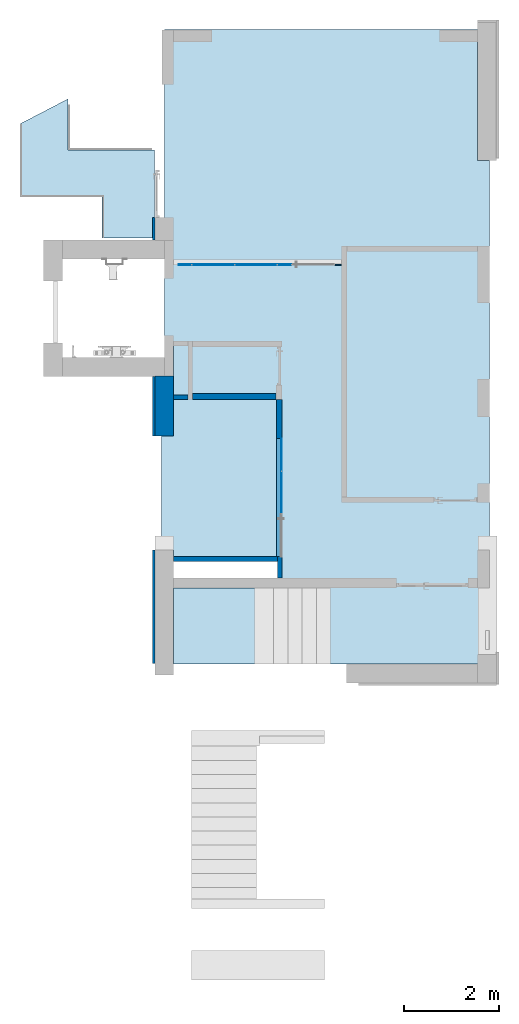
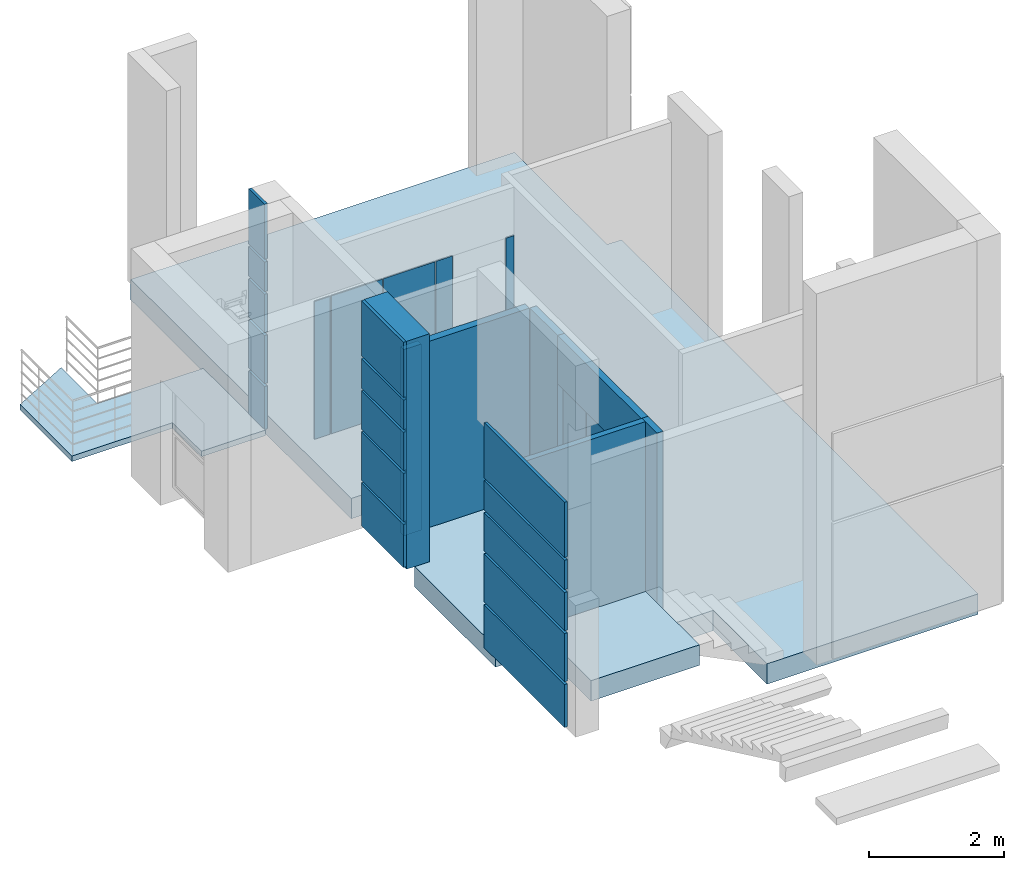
# One storey, part 2 of 15: 8 walls, 7 plates, 3 slabs, 2 elements without a shape of their own.
"""IFC2X3 building model written with IfcOpenShell, lengths in millimetres."""

from ifc_helpers import new_model, entity, si_unit, converted_unit, derived_unit, direction, frame, frame_2d, origin, origin_2d_with_axis, place, context, subcontext, project, spatial, polyline, rectangle, outline, extrude, clip, bounded_halfspace, source, transform, mapped, material, layer, layer_set, layer_usage, type_object, type_shapes, element, aggregate, save


model = new_model("IFC2X3")

# Units and contexts
model_context = context("Model", 3, precision=0.01, world=origin(), true_north=direction((6.12303176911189e-17, 1.0)))
body_context = subcontext(model_context, "Body", "Model", "MODEL_VIEW")
ifc_project = project(units=[si_unit("LENGTHUNIT", "METRE", prefix="MILLI"), si_unit("AREAUNIT", "SQUARE_METRE"), si_unit("VOLUMEUNIT", "CUBIC_METRE"), converted_unit("PLANEANGLEUNIT", "DEGREE", entity("IfcRatioMeasure", 0.0174532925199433), si_unit("PLANEANGLEUNIT", "RADIAN"), dimensions=[0, 0, 0, 0, 0, 0, 0]), si_unit("MASSUNIT", "GRAM", prefix="KILO"), derived_unit("MASSDENSITYUNIT", [(si_unit("MASSUNIT", "GRAM", prefix="KILO"), 1), (si_unit("LENGTHUNIT", "METRE"), -3)]), si_unit("TIMEUNIT", "SECOND"), si_unit("FREQUENCYUNIT", "HERTZ"), si_unit("THERMODYNAMICTEMPERATUREUNIT", "DEGREE_CELSIUS"), derived_unit("THERMALTRANSMITTANCEUNIT", [(si_unit("MASSUNIT", "GRAM", prefix="KILO"), 1), (si_unit("THERMODYNAMICTEMPERATUREUNIT", "KELVIN"), -1), (si_unit("TIMEUNIT", "SECOND"), -3)]), derived_unit("VOLUMETRICFLOWRATEUNIT", [(si_unit("LENGTHUNIT", "METRE"), 3), (si_unit("TIMEUNIT", "SECOND"), -1)]), si_unit("ELECTRICCURRENTUNIT", "AMPERE"), si_unit("ELECTRICVOLTAGEUNIT", "VOLT"), si_unit("POWERUNIT", "WATT"), si_unit("FORCEUNIT", "NEWTON", prefix="KILO"), si_unit("ILLUMINANCEUNIT", "LUX"), si_unit("LUMINOUSFLUXUNIT", "LUMEN"), si_unit("LUMINOUSINTENSITYUNIT", "CANDELA"), derived_unit("USERDEFINED", [(si_unit("MASSUNIT", "GRAM", prefix="KILO"), -1), (si_unit("LENGTHUNIT", "METRE"), -2), (si_unit("TIMEUNIT", "SECOND"), 3), (si_unit("LUMINOUSFLUXUNIT", "LUMEN"), 1)]), derived_unit("LINEARVELOCITYUNIT", [(si_unit("LENGTHUNIT", "METRE"), 1), (si_unit("TIMEUNIT", "SECOND"), -1)]), si_unit("PRESSUREUNIT", "PASCAL"), derived_unit("USERDEFINED", [(si_unit("LENGTHUNIT", "METRE"), -2), (si_unit("MASSUNIT", "GRAM", prefix="KILO"), 1), (si_unit("TIMEUNIT", "SECOND"), -2)])], contexts=[model_context])

# Site, building, storey
site_placement = place(None, frame((-151.875543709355, 2715.0, 0.0)))
site = spatial("IfcSite", under=ifc_project, at=site_placement, Name="Surface", CompositionType="ELEMENT")
building_placement = place(site_placement, origin())
building = spatial("IfcBuilding", under=site, at=building_placement, CompositionType="ELEMENT")
storey_placement = place(building_placement, frame((0.0, 0.0, 7670.0)))
storey = spatial("IfcBuildingStorey", under=building, at=storey_placement, Name="uus 3 korrus", CompositionType="ELEMENT", Elevation=7670.00000000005)

# Curtain wall, plates
curtain_wall_type_1 = type_object("IfcCurtainWallType", Name="Curtain Wall:Klaassein KLS-23", PredefinedType="NOTDEFINED")
curtain_wall_1_placement = place(storey_placement, frame((0.0, 0.0, -7670.0)))
curtain_wall_1 = element("IfcCurtainWall", 1, at=curtain_wall_1_placement, inside=storey, type_object=curtain_wall_type_1, Name="Curtain Wall:Klaassein KLS-23", ObjectType="Curtain Wall:Klaassein KLS-23")
ifc_material_1 = material(Name="<Unnamed>")
ifc_layer_1 = layer(ifc_material_1, 20.0)
ifc_layer_set_1 = layer_set([ifc_layer_1], Name="Curtain Wall:Klaassein KLS-01")
ifc_layer_usage_1 = layer_usage(ifc_layer_set_1, "AXIS3", "POSITIVE", 0.0)
plate_type_1 = type_object("IfcPlateType", Name="Glazed", PredefinedType="CURTAIN_PANEL", material=ifc_layer_set_1)
shared_shape_1 = source(origin(), body_context, "Body", "SweptSolid", [
    extrude(rectangle(XDim=20.0, YDim=879.999999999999, at=origin_2d_with_axis()), frame((0.0, 0.0, 0.0), z_axis=(0.0, 0.0, 1.0), x_axis=(0.0, 1.0, 0.0)), (0.0, 0.0, 1.0), 2500.00000000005),
])
type_shapes(plate_type_1, [shared_shape_1])
plate_1_placement = place(curtain_wall_1_placement, frame((33731.6162681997, 21619.7725567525, 7670.0), z_axis=(0.0, 0.0, 1.0), x_axis=(-1.0, 0.0, 0.0)))
plate_1 = element("IfcPlate", 2, at=plate_1_placement, type_object=plate_type_1, material=ifc_layer_usage_1, Name="System Panel:Glazed", ObjectType="Glazed", context=body_context, shape_type="MappedRepresentation", body=[
    mapped(shared_shape_1, transform((0.0, 0.0, 0.0), scale=1.0)),
])
ifc_layer_usage_2 = layer_usage(ifc_layer_set_1, "AXIS3", "POSITIVE", 0.0)
plate_2_placement = place(curtain_wall_1_placement, frame((32831.6162681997, 21619.7725567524, 7670.0), z_axis=(0.0, 0.0, 1.0), x_axis=(-1.0, 0.0, 0.0)))
plate_2 = element("IfcPlate", 3, at=plate_2_placement, type_object=plate_type_1, material=ifc_layer_usage_2, Name="System Panel:Glazed", ObjectType="Glazed", context=body_context, shape_type="MappedRepresentation", body=[
    mapped(shared_shape_1, transform((0.0, 0.0, 0.0), scale=1.0)),
])

curtain_wall_type_2 = type_object("IfcCurtainWallType", Name="Curtain Wall:Klaassein KLS-12", PredefinedType="NOTDEFINED")
curtain_wall_2_placement = place(storey_placement, frame((0.0, 0.0, -7670.0)))
curtain_wall_2 = element("IfcCurtainWall", 4, at=curtain_wall_2_placement, inside=storey, type_object=curtain_wall_type_2, Name="Curtain Wall:Klaassein KLS-12", ObjectType="Curtain Wall:Klaassein KLS-12")
ifc_layer_usage_3 = layer_usage(ifc_layer_set_1, "AXIS3", "POSITIVE", 0.0)
plate_3_placement = place(curtain_wall_2_placement, frame((34270.014162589, 16820.0, 7670.0), z_axis=(0.0, 0.0, 1.0), x_axis=(0.0, 1.0, 0.0)))
plate_3 = element("IfcPlate", 5, at=plate_3_placement, type_object=plate_type_1, material=ifc_layer_usage_3, Name="System Panel:Glazed", ObjectType="Glazed", context=body_context, shape_type="MappedRepresentation", body=[
    mapped(shared_shape_1, transform((0.0, 0.0, 0.0), scale=1.0)),
])
ifc_layer_usage_4 = layer_usage(ifc_layer_set_1, "AXIS3", "POSITIVE", 0.0)
plate_type_2 = type_object("IfcPlateType", Name="Glazed", PredefinedType="CURTAIN_PANEL", material=ifc_layer_set_1)
shared_shape_2 = source(origin(), body_context, "Body", "SweptSolid", [
    extrude(rectangle(XDim=20.0, YDim=675.0, at=origin_2d_with_axis()), frame((0.0, 0.0, 0.0), z_axis=(0.0, 0.0, 1.0), x_axis=(0.0, 1.0, 0.0)), (0.0, 0.0, 1.0), 2500.00000000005),
])
type_shapes(plate_type_2, [shared_shape_2])
plate_4_placement = place(curtain_wall_2_placement, frame((34270.014162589, 17617.5000000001, 7670.0), z_axis=(0.0, 0.0, 1.0), x_axis=(0.0, 1.0, 0.0)))
plate_4 = element("IfcPlate", 6, at=plate_4_placement, type_object=plate_type_2, material=ifc_layer_usage_4, Name="System Panel:Glazed", ObjectType="Glazed", context=body_context, shape_type="MappedRepresentation", body=[
    mapped(shared_shape_2, transform((0.0, 0.0, 0.0), scale=1.0)),
])
aggregate(curtain_wall_2, [plate_3, plate_4])

# Plate
ifc_layer_usage_5 = layer_usage(ifc_layer_set_1, "AXIS3", "POSITIVE", 0.0)
plate_type_3 = type_object("IfcPlateType", Name="Glazed", PredefinedType="CURTAIN_PANEL", material=ifc_layer_set_1)
shared_shape_3 = source(origin(), body_context, "Body", "SweptSolid", [
    extrude(rectangle(XDim=20.0, YDim=139.999999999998, at=origin_2d_with_axis()), frame((0.0, 0.0, 0.0), z_axis=(0.0, 0.0, 1.0), x_axis=(0.0, 1.0, 0.0)), (0.0, 0.0, 1.0), 2500.0),
])
type_shapes(plate_type_3, [shared_shape_3])
plate_5_placement = place(curtain_wall_1_placement, frame((35461.6162681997, 21619.7725567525, 7670.0), z_axis=(0.0, 0.0, 1.0), x_axis=(-1.0, 0.0, 0.0)))
plate_5 = element("IfcPlate", 7, at=plate_5_placement, type_object=plate_type_3, material=ifc_layer_usage_5, Name="System Panel:Glazed", ObjectType="Glazed", context=body_context, shape_type="MappedRepresentation", body=[
    mapped(shared_shape_3, transform((0.0, 0.0, 0.0), scale=1.0)),
])

ifc_layer_usage_6 = layer_usage(ifc_layer_set_1, "AXIS3", "POSITIVE", 0.0)
plate_type_4 = type_object("IfcPlateType", Name="Glazed", PredefinedType="CURTAIN_PANEL", material=ifc_layer_set_1)
shared_shape_4 = source(origin(), body_context, "Body", "SweptSolid", [
    extrude(rectangle(XDim=20.0, YDim=279.999999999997, at=origin_2d_with_axis()), frame((0.0, 0.0, 0.0), z_axis=(0.0, 0.0, 1.0), x_axis=(0.0, 1.0, 0.0)), (0.0, 0.0, 1.0), 2500.0),
])
type_shapes(plate_type_4, [shared_shape_4])
plate_6_placement = place(curtain_wall_1_placement, frame((34331.6162681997, 21619.7725567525, 7670.0), z_axis=(0.0, 0.0, 1.0), x_axis=(-1.0, 0.0, 0.0)))
plate_6 = element("IfcPlate", 8, at=plate_6_placement, type_object=plate_type_4, material=ifc_layer_usage_6, Name="System Panel:Glazed", ObjectType="Glazed", context=body_context, shape_type="MappedRepresentation", body=[
    mapped(shared_shape_4, transform((0.0, 0.0, 0.0), scale=1.0)),
])

ifc_layer_usage_7 = layer_usage(ifc_layer_set_1, "AXIS3", "POSITIVE", 0.0)
plate_type_5 = type_object("IfcPlateType", Name="Glazed", PredefinedType="CURTAIN_PANEL", material=ifc_layer_set_1)
shared_shape_5 = source(origin(), body_context, "Body", "SweptSolid", [
    extrude(rectangle(XDim=20.0, YDim=265.499999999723, at=origin_2d_with_axis()), frame((0.0, 0.0, 0.0), z_axis=(0.0, 0.0, 1.0), x_axis=(0.0, 1.0, 0.0)), (0.0, 0.0, 1.0), 2500.0),
])
type_shapes(plate_type_5, [shared_shape_5])
plate_7_placement = place(curtain_wall_1_placement, frame((32238.8662681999, 21619.7725567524, 7670.0), z_axis=(0.0, 0.0, 1.0), x_axis=(-1.0, 0.0, 0.0)))
plate_7 = element("IfcPlate", 9, at=plate_7_placement, type_object=plate_type_5, material=ifc_layer_usage_7, Name="System Panel:Glazed", ObjectType="Glazed", context=body_context, shape_type="MappedRepresentation", body=[
    mapped(shared_shape_5, transform((0.0, 0.0, 0.0), scale=1.0)),
])

aggregate(curtain_wall_1, [plate_5, plate_6, plate_1, plate_2, plate_7])

# Slabs
ifc_material_2 = material(Name="Viimistlus")
ifc_layer_2 = layer(ifc_material_2, 20.0)
ifc_material_3 = material(Name="Betoon")
ifc_layer_3 = layer(ifc_material_3, 80.0)
ifc_material_4 = material(Name="Helisummutusvill")
ifc_layer_4 = layer(ifc_material_4, 50.0)
ifc_material_5 = material(Name="Betoon paneel")
ifc_layer_5 = layer(ifc_material_5, 220.0)
ifc_layer_set_2 = layer_set([ifc_layer_2, ifc_layer_3, ifc_layer_4, ifc_layer_5], Name="Floor:VL-2.1_vahelagi juurdeehitusel")
ifc_layer_usage_8 = layer_usage(ifc_layer_set_2, "AXIS3", "POSITIVE", 0.0)
slab_1_placement = place(storey_placement, origin())
element("IfcSlab", 10, at=slab_1_placement, inside=storey, material=ifc_layer_usage_8, Name="Floor:VL-2.1_vahelagi juurdeehitusel", ObjectType="Floor:VL-2.1_vahelagi juurdeehitusel", PredefinedType="FLOOR", context=body_context, shape_type="SweptSolid", body=[
    extrude(outline(polyline([(-2436.32830501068, -2233.66085756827), (-36.3740439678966, -2233.66085756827), (-36.3740439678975, -1976.66085756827), (1963.67169595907, -1976.66085756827), (1963.67169595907, -2166.66085756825), (8520.67172154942, -2166.66085756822), (8520.67172154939, 4418.3391424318), (5763.67215151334, 4418.33914243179), (5763.67215151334, 4665.33914243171), (-4836.32830501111, 4665.33914243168), (-4836.3283050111, 1043.28686054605), (-3236.32830501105, 1043.28686054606), (-3236.32830501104, -1976.66085756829), (-3026.32830501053, -1976.66085756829), (-3026.32830501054, 203.339142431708), (-2676.32830501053, 203.339142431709), (-2676.32830501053, -1976.66085756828), (-2436.32830501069, -1976.66085756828), (-2436.32830501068, -2233.66085756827)])), frame((33978.2771257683, 18046.3283050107, 0.0), z_axis=(0.0, 0.0, -1.0), x_axis=(0.0, 1.0, 0.0)), (0.0, 0.0, 1.0), 370.0),
])
ifc_layer_usage_9 = layer_usage(ifc_layer_set_2, "AXIS3", "POSITIVE", 0.0)
slab_2_placement = place(storey_placement, origin())
element("IfcSlab", 11, at=slab_2_placement, inside=storey, material=ifc_layer_usage_9, Name="Floor:VL-2.1_vahelagi juurdeehitusel", ObjectType="Floor:VL-2.1_vahelagi juurdeehitusel", PredefinedType="FLOOR", context=body_context, shape_type="SweptSolid", body=[
    extrude(rectangle(XDim=1600.00000000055, YDim=1859.99999999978, at=frame_2d((0.0, -4.32009983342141e-12), x_axis=(1.0, 0.0))), frame((32931.6162681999, 14010.0, 750.0), z_axis=(0.0, 0.0, -1.0), x_axis=(0.0, 1.0, 0.0)), (0.0, 0.0, 1.0), 370.0),
])
ifc_layer_6 = layer(ifc_material_3, 100.0)
ifc_layer_set_3 = layer_set([ifc_layer_6], Name="Floor:Betoontasand 2")
ifc_layer_usage_10 = layer_usage(ifc_layer_set_3, "AXIS3", "POSITIVE", 0.0)
slab_3_placement = place(storey_placement, origin())
element("IfcSlab", 12, at=slab_3_placement, inside=storey, material=ifc_layer_usage_10, Name="Floor:Betoontasand 2", ObjectType="Floor:Betoontasand 2", PredefinedType="FLOOR", context=body_context, shape_type="SweptSolid", body=[
    extrude(outline(polyline([(-486.571749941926, -1390.59865148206), (1057.36494705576, -1390.59865148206), (1581.29092226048, -383.133782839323), (507.8403860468, -383.13378283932), (507.840386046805, 1436.86621716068), (-1340.59657076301, 1436.86621716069), (-1340.59657076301, 336.866217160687), (-486.571749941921, 336.866217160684), (-486.571749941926, -1390.59865148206)])), frame((30155.7500510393, 23524.5965709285, 0.0), z_axis=(0.0, 0.0, -1.0), x_axis=(0.0, 1.0, 0.0)), (0.0, 0.0, 1.0), 100.0),
])

# Walls
ifc_material_6 = material(Name="__Kips GN13_tava")
ifc_layer_7 = layer(ifc_material_6, 12.5)
ifc_layer_8 = layer(ifc_material_6, 12.5)
ifc_material_7 = material(Name="__Soojustus EPS")
ifc_layer_9 = layer(ifc_material_7, 66.0)
ifc_layer_10 = layer(ifc_material_6, 12.5)
ifc_layer_11 = layer(ifc_material_6, 12.5)
ifc_layer_set_4 = layer_set([ifc_layer_7, ifc_layer_8, ifc_layer_9, ifc_layer_10, ifc_layer_11], Name="Basic Wall:SS-3_Kipssein tava ruumide vahel")
ifc_layer_usage_11 = layer_usage(ifc_layer_set_4, "AXIS2", "NEGATIVE", 58.0)
wall_type_1 = type_object("IfcWallType", Name="Basic Wall:SS-3_Kipssein tava ruumide vahel", PredefinedType="STANDARD", material=ifc_layer_set_4)
wall_1_placement = place(storey_placement, frame((34223.319652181, 17955.0, 2500.0), z_axis=(0.0, 0.0, 1.0), x_axis=(0.0, -1.0, 0.0)))
element("IfcWallStandardCase", 13, at=wall_1_placement, inside=storey, type_object=wall_type_1, material=ifc_layer_usage_11, Name="Basic Wall:SS-3_Kipssein tava ruumide vahel", ObjectType="Basic Wall:SS-3_Kipssein tava ruumide vahel", context=body_context, shape_type="SweptSolid", body=[
    extrude(rectangle(XDim=2485.0, YDim=116.0, at=frame_2d((1242.5, -1.27897692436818e-13), x_axis=(-1.0, 0.0))), origin(), (0.0, 0.0, 1.0), 879.999999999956),
])
ifc_layer_usage_12 = layer_usage(ifc_layer_set_4, "AXIS2", "NEGATIVE", 58.0)
wall_2_placement = place(storey_placement, frame((34223.3196497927, 18777.971003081, 0.0), z_axis=(0.0, 0.0, 1.0), x_axis=(0.0, -1.0, 0.0)))
element("IfcWallStandardCase", 14, at=wall_2_placement, inside=storey, type_object=wall_type_1, material=ifc_layer_usage_12, Name="Basic Wall:SS-3_Kipssein tava ruumide vahel", ObjectType="Basic Wall:SS-3_Kipssein tava ruumide vahel", context=body_context, shape_type="Clipping", body=[
    clip(extrude(rectangle(XDim=822.971003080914, YDim=116.0, at=frame_2d((411.485501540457, 4.54747350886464e-13), x_axis=(-1.0, 0.0))), origin(), (0.0, 0.0, 1.0), 3380.00000000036), bounded_halfspace(frame((0.0, -58.0, 3380.0), z_axis=(0.0, 0.0, 1.0), x_axis=(0.0, 1.0, 0.0)), False, frame((0.0, -58.0, 3380.0)), polyline([(0.0, 0.0), (822.971003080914, 0.0), (822.971003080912, 116.0), (0.0, 116.0), (0.0, 115.782441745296), (0.0, 0.0)]))),
])
ifc_material_8 = material(Name="__Tuuletõkkeplaat")
ifc_layer_12 = layer(ifc_material_8, 9.0)
ifc_layer_13 = layer(ifc_material_7, 200.0)
ifc_material_9 = material(Name="__Kergblokk")
ifc_layer_14 = layer(ifc_material_9, 190.0)
ifc_layer_set_5 = layer_set([ifc_layer_12, ifc_layer_13, ifc_layer_14], Name="Basic Wall:VS-2.2_Juurdeehituse välissein")
ifc_layer_usage_13 = layer_usage(ifc_layer_set_5, "AXIS2", "NEGATIVE", 199.5)
wall_type_2 = type_object("IfcWallType", Name="Basic Wall:VS-2.2_Juurdeehituse välissein", PredefinedType="STANDARD", material=ifc_layer_set_5)
wall_3_placement = place(storey_placement, frame((31802.1162682, 18009.9542610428, 0.0), z_axis=(0.0, 0.0, 1.0), x_axis=(0.0, 1.0, 0.0)))
element("IfcWallStandardCase", 15, at=wall_3_placement, inside=storey, type_object=wall_type_2, material=ifc_layer_usage_13, Name="Basic Wall:VS-2.2_Juurdeehituse välissein", ObjectType="Basic Wall:VS-2.2_Juurdeehituse välissein", context=body_context, shape_type="SweptSolid", body=[
    extrude(rectangle(XDim=1260.04573912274, YDim=398.999999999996, at=frame_2d((630.022869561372, 0.0), x_axis=(-1.0, 0.0))), origin(), (0.0, 0.0, 1.0), 4135.0),
])
ifc_layer_15 = layer(ifc_material_6, 12.5)
ifc_layer_16 = layer(ifc_material_6, 12.5)
ifc_layer_17 = layer(ifc_material_7, 66.0)
ifc_material_10 = material(Name="__Kips GKB_niiskuskindel")
ifc_layer_18 = layer(ifc_material_10, 12.5)
ifc_layer_19 = layer(ifc_material_10, 12.5)
ifc_material_11 = material(Name="Keraamiline_plaat")
ifc_layer_20 = layer(ifc_material_11, 10.0)
ifc_layer_set_6 = layer_set([ifc_layer_15, ifc_layer_16, ifc_layer_17, ifc_layer_18, ifc_layer_19, ifc_layer_20], Name="Basic Wall:SS-4_Kipssein tava ja niiske ruumi vahel")
ifc_layer_usage_14 = layer_usage(ifc_layer_set_6, "AXIS2", "POSITIVE", -63.0)
wall_type_3 = type_object("IfcWallType", Name="Basic Wall:SS-4_Kipssein tava ja niiske ruumi vahel", PredefinedType="STANDARD", material=ifc_layer_set_6)
wall_4_placement = place(storey_placement, frame((32401.6162682, 18840.971003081, 0.0)))
element("IfcWallStandardCase", 16, at=wall_4_placement, inside=storey, type_object=wall_type_3, material=ifc_layer_usage_14, Name="Basic Wall:SS-4_Kipssein tava ja niiske ruumi vahel", ObjectType="Basic Wall:SS-4_Kipssein tava ja niiske ruumi vahel", context=body_context, shape_type="Clipping", body=[
    clip(extrude(rectangle(XDim=1753.48582333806, YDim=126.000000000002, at=frame_2d((876.742911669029, -3.33955085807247e-13), x_axis=(-1.0, 0.0))), origin(), (0.0, 0.0, 1.0), 3380.00000000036), bounded_halfspace(frame((0.0, -63.0, 3380.0)), False, frame((0.0, -63.0, 3380.0)), polyline([(0.0, 0.0), (1753.48582333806, 0.0), (1753.48582333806, 126.0), (0.0, 126.0), (0.0, 0.0)]))),
])
ifc_material_12 = material(Name="__Helehall")
ifc_layer_21 = layer(ifc_material_12, 10.0)
ifc_layer_22 = layer(ifc_material_9, 90.0)
ifc_layer_set_7 = layer_set([ifc_layer_21, ifc_layer_22], Name="Basic Wall:SS-6_Šahti sein EI-60")
ifc_layer_usage_15 = layer_usage(ifc_layer_set_7, "AXIS2", "POSITIVE", -50.0)
wall_type_4 = type_object("IfcWallType", Name="Basic Wall:SS-6_Šahti sein EI-60", PredefinedType="STANDARD", material=ifc_layer_set_7)
wall_5_placement = place(storey_placement, frame((34231.6162682, 15020.0, 0.0), z_axis=(0.0, 0.0, 1.0), x_axis=(0.0, 1.0, 0.0)))
element("IfcWallStandardCase", 17, at=wall_5_placement, inside=storey, type_object=wall_type_4, material=ifc_layer_usage_15, Name="Basic Wall:SS-6_Šahti sein EI-60", ObjectType="Basic Wall:SS-6_Šahti sein EI-60", context=body_context, shape_type="Clipping", body=[
    clip(extrude(rectangle(XDim=449.999999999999, YDim=100.000000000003, at=frame_2d((225.0, 0.0), x_axis=(-1.0, 0.0))), origin(), (0.0, 0.0, 1.0), 3380.00000000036), bounded_halfspace(frame((0.0, -50.0, 3380.0), z_axis=(0.0, 0.0, 1.0), x_axis=(0.0, -1.0, 0.0)), False, frame((0.0, -50.0, 3380.0)), polyline([(0.0, 0.0), (450.0, 0.0), (450.0, 0.296616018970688), (450.0, 100.0), (350.0, 100.0), (0.0, 100.0), (0.0, 0.0)]))),
])
ifc_layer_usage_16 = layer_usage(ifc_layer_set_7, "AXIS2", "POSITIVE", -50.0)
wall_6_placement = place(storey_placement, frame((34181.6162682, 15420.0, 0.0), z_axis=(0.0, 0.0, 1.0), x_axis=(-1.0, 0.0, 0.0)))
element("IfcWallStandardCase", 18, at=wall_6_placement, inside=storey, type_object=wall_type_4, material=ifc_layer_usage_16, Name="Basic Wall:SS-6_Šahti sein EI-60", ObjectType="Basic Wall:SS-6_Šahti sein EI-60", context=body_context, shape_type="Clipping", body=[
    clip(extrude(rectangle(XDim=2180.0, YDim=99.9999999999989, at=frame_2d((1090.0, 3.05533376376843e-13), x_axis=(-1.0, 0.0))), origin(), (0.0, 0.0, 1.0), 3380.00000000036), bounded_halfspace(frame((0.0, -50.0, 3380.0), z_axis=(0.0, 0.0, 1.0), x_axis=(-1.0, 0.0, 0.0)), False, frame((0.0, -50.0, 3380.0)), polyline([(0.0, 0.0), (16.2966160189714, 0.0), (2180.0, 0.0), (2180.0, 100.0), (0.0, 100.0), (0.0, 0.0)]))),
])
ifc_layer_usage_17 = layer_usage(ifc_layer_set_7, "AXIS2", "NEGATIVE", 50.0)
wall_7_placement = place(storey_placement, frame((32301.6162682, 18827.971003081, 0.0), z_axis=(0.0, 0.0, 1.0), x_axis=(-1.0, 0.0, 0.0)))
element("IfcWallStandardCase", 19, at=wall_7_placement, inside=storey, type_object=wall_type_4, material=ifc_layer_usage_17, Name="Basic Wall:SS-6_Šahti sein EI-60", ObjectType="Basic Wall:SS-6_Šahti sein EI-60", context=body_context, shape_type="SweptSolid", body=[
    extrude(rectangle(XDim=299.999999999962, YDim=99.9999999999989, at=frame_2d((149.999999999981, -5.6843418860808e-13), x_axis=(-1.0, 0.0))), origin(), (0.0, 0.0, 1.0), 3380.00000000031),
])
ifc_material_13 = material(Name="Steel/Aluminium")
wall_type_5 = type_object("IfcWallType", Name="fassaad1.3:fassaad 2", PredefinedType="NOTDEFINED", material=ifc_material_13)
wall_8_placement = place(storey_placement, frame((31552.6162681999, 13221.7852732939, 50.0), z_axis=(0.0, 0.0, 1.0), x_axis=(0.0, 1.0, 0.0)))
element("IfcWall", 20, at=wall_8_placement, inside=storey, type_object=wall_type_5, material=ifc_material_13, Name="fassaad1.3:fassaad 2", ObjectType="fassaad1.3:fassaad 2", context=body_context, shape_type="SweptSolid", body=[
    extrude(rectangle(XDim=50.0000000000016, YDim=2389.28983966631, at=frame_2d((-2.16537898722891e-12, 0.0), x_axis=(1.0, 0.0))), frame((1194.64491983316, -25.0, 3085.0), z_axis=(0.0, 0.0, 1.0), x_axis=(0.0, -1.0, 0.0)), (0.0, 0.0, 1.0), 999.999987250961),
    extrude(rectangle(XDim=50.0000000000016, YDim=1250.0, at=origin_2d_with_axis()), frame((5414.2441134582, -25.0, 830.0), z_axis=(0.0, 0.0, 1.0), x_axis=(0.0, -1.0, 0.0)), (0.0, 0.0, 1.0), 874.999999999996),
    extrude(rectangle(XDim=50.0000000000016, YDim=1250.0, at=frame_2d((-4.33253433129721e-12, 1.13686837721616e-12), x_axis=(1.0, 0.0))), frame((5414.2441134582, -25.0, 0.0), z_axis=(0.0, 0.0, 1.0), x_axis=(0.0, -1.0, 0.0)), (0.0, 0.0, 1.0), 780.0),
    extrude(rectangle(XDim=50.0000000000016, YDim=2389.28983966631, at=origin_2d_with_axis()), frame((1194.64491983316, -25.0, 830.0), z_axis=(0.0, 0.0, 1.0), x_axis=(0.0, -1.0, 0.0)), (0.0, 0.0, 1.0), 874.999999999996),
    extrude(rectangle(XDim=50.0000000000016, YDim=2389.28983966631, at=origin_2d_with_axis()), frame((1194.64491983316, -25.0, 0.0), z_axis=(0.0, 0.0, 1.0), x_axis=(0.0, -1.0, 0.0)), (0.0, 0.0, 1.0), 780.0),
    extrude(rectangle(XDim=50.0000000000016, YDim=470.000000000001, at=frame_2d((4.33253433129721e-12, -2.17426077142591e-12), x_axis=(1.0, 0.0))), frame((9154.28985241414, -25.0, 830.0), z_axis=(0.0, 0.0, 1.0), x_axis=(0.0, -1.0, 0.0)), (0.0, 0.0, 1.0), 874.999999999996),
    extrude(rectangle(XDim=50.0000000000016, YDim=470.000000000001, at=frame_2d((-2.16715534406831e-12, -2.17426077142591e-12), x_axis=(1.0, 0.0))), frame((9154.28985241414, -25.0, 0.0), z_axis=(0.0, 0.0, 1.0), x_axis=(0.0, -1.0, 0.0)), (0.0, 0.0, 1.0), 780.0),
    extrude(rectangle(XDim=50.0000000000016, YDim=470.000000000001, at=frame_2d((0.0, -2.17426077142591e-12), x_axis=(1.0, 0.0))), frame((9154.28985241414, -25.0, 3085.0), z_axis=(0.0, 0.0, 1.0), x_axis=(0.0, -1.0, 0.0)), (0.0, 0.0, 1.0), 999.999999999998),
    extrude(rectangle(XDim=50.0000000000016, YDim=1250.0, at=frame_2d((2.16537898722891e-12, 1.13686837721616e-12), x_axis=(1.0, 0.0))), frame((5414.2441134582, -25.0, 3085.0), z_axis=(0.0, 0.0, 1.0), x_axis=(0.0, -1.0, 0.0)), (0.0, 0.0, 1.0), 999.999999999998),
    extrude(rectangle(XDim=50.0000000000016, YDim=1250.00000000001, at=frame_2d((-4.33253433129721e-12, 1.08002495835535e-12), x_axis=(1.0, 0.0))), frame((5414.2441134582, -25.0, 2500.00002000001), z_axis=(0.0, 0.0, 1.0), x_axis=(0.0, -1.0, 0.0)), (0.0, 0.0, 1.0), 534.999979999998),
    extrude(rectangle(XDim=50.0000000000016, YDim=1250.0, at=frame_2d((4.33253433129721e-12, 1.13686837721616e-12), x_axis=(1.0, 0.0))), frame((5414.2441134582, -25.0, 1755.0), z_axis=(0.0, 0.0, 1.0), x_axis=(0.0, -1.0, 0.0)), (0.0, 0.0, 1.0), 695.000020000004),
    extrude(rectangle(XDim=50.0000000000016, YDim=2389.28983966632, at=origin_2d_with_axis()), frame((1194.64491983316, -25.0, 2500.00002000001), z_axis=(0.0, 0.0, 1.0), x_axis=(0.0, -1.0, 0.0)), (0.0, 0.0, 1.0), 534.999979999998),
    extrude(rectangle(XDim=50.0000000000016, YDim=2389.28983966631, at=origin_2d_with_axis()), frame((1194.64491983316, -25.0, 1755.0), z_axis=(0.0, 0.0, 1.0), x_axis=(0.0, -1.0, 0.0)), (0.0, 0.0, 1.0), 695.000020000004),
    extrude(rectangle(XDim=50.0000000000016, YDim=470.00000000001, at=frame_2d((-2.16715534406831e-12, 2.1600499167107e-12), x_axis=(1.0, 0.0))), frame((9154.28985241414, -25.0, 2500.00002000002), z_axis=(0.0, 0.0, 1.0), x_axis=(0.0, -1.0, 0.0)), (0.0, 0.0, 1.0), 534.999979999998),
    extrude(rectangle(XDim=50.0000000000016, YDim=470.000000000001, at=frame_2d((0.0, -2.17426077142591e-12), x_axis=(1.0, 0.0))), frame((9154.28985241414, -25.0, 1755.0), z_axis=(0.0, 0.0, 1.0), x_axis=(0.0, -1.0, 0.0)), (0.0, 0.0, 1.0), 695.000020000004),
])

save(model, "model.ifc")
